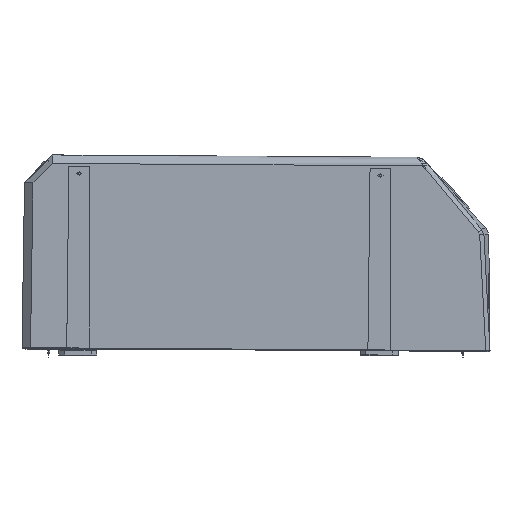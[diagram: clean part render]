
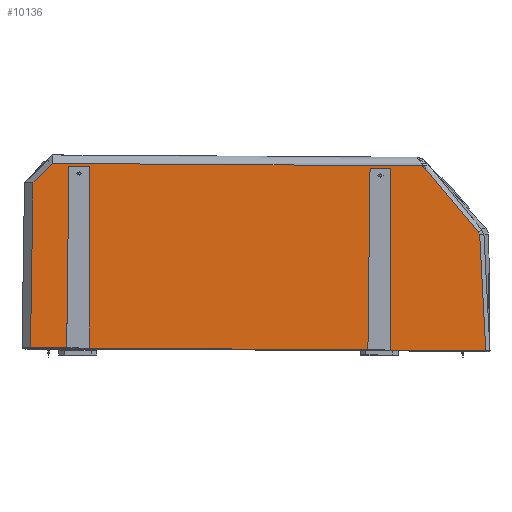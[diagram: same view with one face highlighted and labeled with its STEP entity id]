
A CAD part, left-side view. The second image highlights one B-rep face of the part: STEP entity #10136.
In plain terms, the highlighted planar face has unit normal (-1, 0, 0).
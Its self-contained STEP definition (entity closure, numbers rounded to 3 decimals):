
#4372=(
BOUNDED_CURVE()
B_SPLINE_CURVE(2,(#225765,#225766,#225767),.UNSPECIFIED.,.F.,.F.)
B_SPLINE_CURVE_WITH_KNOTS((3,3),(0.,10.934),.UNSPECIFIED.)
CURVE()
GEOMETRIC_REPRESENTATION_ITEM()
RATIONAL_B_SPLINE_CURVE((1.,0.71,1.))
REPRESENTATION_ITEM('')
);
#10136=ADVANCED_FACE('',(#16204),#99323,.T.);
#16204=FACE_OUTER_BOUND('',#22631,.T.);
#22631=EDGE_LOOP('',(#48313,#48314,#48315,#48316,#48317,#48318,#48319,#48320,
#48321,#48322,#48323,#48324,#48325,#48326,#48327,#48328,#48329,#48330));
#48313=ORIENTED_EDGE('',*,*,#68086,.F.);
#48314=ORIENTED_EDGE('',*,*,#68269,.F.);
#48315=ORIENTED_EDGE('',*,*,#68268,.F.);
#48316=ORIENTED_EDGE('',*,*,#68258,.F.);
#48317=ORIENTED_EDGE('',*,*,#68256,.F.);
#48318=ORIENTED_EDGE('',*,*,#68249,.F.);
#48319=ORIENTED_EDGE('',*,*,#68237,.F.);
#48320=ORIENTED_EDGE('',*,*,#68224,.F.);
#48321=ORIENTED_EDGE('',*,*,#68267,.F.);
#48322=ORIENTED_EDGE('',*,*,#68215,.F.);
#48323=ORIENTED_EDGE('',*,*,#68195,.F.);
#48324=ORIENTED_EDGE('',*,*,#68181,.F.);
#48325=ORIENTED_EDGE('',*,*,#68266,.T.);
#48326=ORIENTED_EDGE('',*,*,#68265,.T.);
#48327=ORIENTED_EDGE('',*,*,#68280,.T.);
#48328=ORIENTED_EDGE('',*,*,#68264,.T.);
#48329=ORIENTED_EDGE('',*,*,#68263,.T.);
#48330=ORIENTED_EDGE('',*,*,#68262,.T.);
#68086=EDGE_CURVE('',#92635,#92639,#81313,.T.);
#68181=EDGE_CURVE('',#92685,#92689,#81403,.T.);
#68195=EDGE_CURVE('',#92689,#92705,#81416,.T.);
#68215=EDGE_CURVE('',#92705,#92713,#81436,.T.);
#68224=EDGE_CURVE('',#92715,#92719,#81445,.T.);
#68237=EDGE_CURVE('',#92719,#92734,#81458,.T.);
#68249=EDGE_CURVE('',#92734,#92741,#81469,.T.);
#68256=EDGE_CURVE('',#92741,#92743,#81475,.T.);
#68258=EDGE_CURVE('',#92743,#92633,#81476,.T.);
#68262=EDGE_CURVE('',#92745,#92639,#81479,.T.);
#68263=EDGE_CURVE('',#92746,#92745,#81480,.T.);
#68264=EDGE_CURVE('',#92747,#92746,#81481,.T.);
#68265=EDGE_CURVE('',#92684,#92748,#81482,.T.);
#68266=EDGE_CURVE('',#92685,#92684,#81483,.T.);
#68267=EDGE_CURVE('',#92713,#92715,#81484,.T.);
#68268=EDGE_CURVE('',#92633,#92634,#4372,.T.);
#68269=EDGE_CURVE('',#92634,#92635,#81485,.T.);
#68280=EDGE_CURVE('',#92748,#92747,#81496,.T.);
#81313=B_SPLINE_CURVE_WITH_KNOTS('',3,(#225080,#225081,#225082,#225083),
 .UNSPECIFIED.,.F.,.F.,(4,4),(-0.383,0.),.UNSPECIFIED.);
#81403=B_SPLINE_CURVE_WITH_KNOTS('',1,(#225472,#225473),.UNSPECIFIED.,.F.,
 .F.,(2,2),(-64.201,0.),.UNSPECIFIED.);
#81416=B_SPLINE_CURVE_WITH_KNOTS('',1,(#225528,#225529),.UNSPECIFIED.,.F.,
 .F.,(2,2),(-7.325,0.),.UNSPECIFIED.);
#81436=B_SPLINE_CURVE_WITH_KNOTS('',1,(#225593,#225594),.UNSPECIFIED.,.F.,
 .F.,(2,2),(-64.201,0.),.UNSPECIFIED.);
#81445=B_SPLINE_CURVE_WITH_KNOTS('',1,(#225619,#225620),.UNSPECIFIED.,.F.,
 .F.,(2,2),(-64.201,0.),.UNSPECIFIED.);
#81458=B_SPLINE_CURVE_WITH_KNOTS('',1,(#225672,#225673),.UNSPECIFIED.,.F.,
 .F.,(2,2),(-7.325,0.),.UNSPECIFIED.);
#81469=B_SPLINE_CURVE_WITH_KNOTS('',1,(#225713,#225714),.UNSPECIFIED.,.F.,
 .F.,(2,2),(-64.201,0.),.UNSPECIFIED.);
#81475=B_SPLINE_CURVE_WITH_KNOTS('',1,(#225732,#225733),.UNSPECIFIED.,.F.,
 .F.,(2,2),(-12.812,0.),.UNSPECIFIED.);
#81476=B_SPLINE_CURVE_WITH_KNOTS('',1,(#225739,#225740),.UNSPECIFIED.,.F.,
 .F.,(2,2),(-58.263,0.),.UNSPECIFIED.);
#81479=B_SPLINE_CURVE_WITH_KNOTS('',1,(#225751,#225752),.UNSPECIFIED.,.F.,
 .F.,(2,2),(-0.939,0.),.UNSPECIFIED.);
#81480=B_SPLINE_CURVE_WITH_KNOTS('',1,(#225753,#225754),.UNSPECIFIED.,.F.,
 .F.,(2,2),(-0.289,0.),.UNSPECIFIED.);
#81481=B_SPLINE_CURVE_WITH_KNOTS('',3,(#225755,#225756,#225757,#225758),
 .UNSPECIFIED.,.F.,.F.,(4,4),(-29.733,0.),.UNSPECIFIED.);
#81482=B_SPLINE_CURVE_WITH_KNOTS('',1,(#225759,#225760),.UNSPECIFIED.,.F.,
 .F.,(2,2),(-41.117,0.),.UNSPECIFIED.);
#81483=B_SPLINE_CURVE_WITH_KNOTS('',1,(#225761,#225762),.UNSPECIFIED.,.F.,
 .F.,(2,2),(-33.672,0.),.UNSPECIFIED.);
#81484=B_SPLINE_CURVE_WITH_KNOTS('',1,(#225763,#225764),.UNSPECIFIED.,.F.,
 .F.,(2,2),(0.,98.503),.UNSPECIFIED.);
#81485=B_SPLINE_CURVE_WITH_KNOTS('',1,(#225768,#225769),.UNSPECIFIED.,.F.,
 .F.,(2,2),(0.,130.523),.UNSPECIFIED.);
#81496=B_SPLINE_CURVE_WITH_KNOTS('',3,(#225832,#225833,#225834,#225835,
#225836,#225837),.UNSPECIFIED.,.F.,.F.,(4,1,1,4),(0.,0.215,
0.43,0.646),.UNSPECIFIED.);
#92633=VERTEX_POINT('',#219795);
#92634=VERTEX_POINT('',#219796);
#92635=VERTEX_POINT('',#219797);
#92639=VERTEX_POINT('',#219801);
#92684=VERTEX_POINT('',#219846);
#92685=VERTEX_POINT('',#219847);
#92689=VERTEX_POINT('',#219851);
#92705=VERTEX_POINT('',#219867);
#92713=VERTEX_POINT('',#219875);
#92715=VERTEX_POINT('',#219877);
#92719=VERTEX_POINT('',#219881);
#92734=VERTEX_POINT('',#219896);
#92741=VERTEX_POINT('',#219903);
#92743=VERTEX_POINT('',#219905);
#92745=VERTEX_POINT('',#219907);
#92746=VERTEX_POINT('',#219908);
#92747=VERTEX_POINT('',#219909);
#92748=VERTEX_POINT('',#219910);
#99323=PLANE('',#103783);
#103783=AXIS2_PLACEMENT_3D('',#201497,#108453,$);
#108453=DIRECTION('',(-1.,0.,0.));
#201497=CARTESIAN_POINT('',(-40.539,-110.828,77.311));
#219795=CARTESIAN_POINT('',(-40.538,66.676,64.673));
#219796=CARTESIAN_POINT('',(-40.538,59.609,71.588));
#219797=CARTESIAN_POINT('',(-40.538,-71.319,70.733));
#219801=CARTESIAN_POINT('',(-40.538,-71.562,70.435));
#219846=CARTESIAN_POINT('',(-40.533,-93.913,5.18));
#219847=CARTESIAN_POINT('',(-40.533,-60.136,5.401));
#219851=CARTESIAN_POINT('',(-40.538,-60.219,69.802));
#219867=CARTESIAN_POINT('',(-40.538,-52.872,69.85));
#219875=CARTESIAN_POINT('',(-40.533,-52.115,5.453));
#219877=CARTESIAN_POINT('',(-40.533,46.694,6.098));
#219881=CARTESIAN_POINT('',(-40.538,46.611,70.5));
#219896=CARTESIAN_POINT('',(-40.538,53.958,70.548));
#219903=CARTESIAN_POINT('',(-40.533,54.716,6.151));
#219905=CARTESIAN_POINT('',(-40.533,67.567,6.234));
#219907=CARTESIAN_POINT('',(-40.538,-72.158,69.705));
#219908=CARTESIAN_POINT('',(-40.538,-72.403,69.86));
#219909=CARTESIAN_POINT('',(-40.536,-91.511,46.959));
#219910=CARTESIAN_POINT('',(-40.536,-91.743,46.369));
#225080=CARTESIAN_POINT('',(-40.538,-71.319,70.733));
#225081=CARTESIAN_POINT('',(-40.538,-71.4,70.634));
#225082=CARTESIAN_POINT('',(-40.538,-71.481,70.535));
#225083=CARTESIAN_POINT('',(-40.538,-71.562,70.435));
#225472=CARTESIAN_POINT('',(-40.533,-60.136,5.401));
#225473=CARTESIAN_POINT('',(-40.538,-60.219,69.802));
#225528=CARTESIAN_POINT('',(-40.538,-60.219,69.802));
#225529=CARTESIAN_POINT('',(-40.538,-52.872,69.85));
#225593=CARTESIAN_POINT('',(-40.538,-52.872,69.85));
#225594=CARTESIAN_POINT('',(-40.533,-52.115,5.453));
#225619=CARTESIAN_POINT('',(-40.533,46.694,6.098));
#225620=CARTESIAN_POINT('',(-40.538,46.611,70.5));
#225672=CARTESIAN_POINT('',(-40.538,46.611,70.5));
#225673=CARTESIAN_POINT('',(-40.538,53.958,70.548));
#225713=CARTESIAN_POINT('',(-40.538,53.958,70.548));
#225714=CARTESIAN_POINT('',(-40.533,54.716,6.151));
#225732=CARTESIAN_POINT('',(-40.533,54.716,6.151));
#225733=CARTESIAN_POINT('',(-40.533,67.567,6.234));
#225739=CARTESIAN_POINT('',(-40.533,67.567,6.234));
#225740=CARTESIAN_POINT('',(-40.538,66.676,64.673));
#225751=CARTESIAN_POINT('',(-40.538,-72.158,69.705));
#225752=CARTESIAN_POINT('',(-40.538,-71.562,70.435));
#225753=CARTESIAN_POINT('',(-40.538,-72.403,69.86));
#225754=CARTESIAN_POINT('',(-40.538,-72.158,69.705));
#225755=CARTESIAN_POINT('',(-40.536,-91.511,46.959));
#225756=CARTESIAN_POINT('',(-40.537,-85.142,54.593));
#225757=CARTESIAN_POINT('',(-40.537,-78.772,62.226));
#225758=CARTESIAN_POINT('',(-40.538,-72.403,69.86));
#225759=CARTESIAN_POINT('',(-40.533,-93.913,5.18));
#225760=CARTESIAN_POINT('',(-40.536,-91.743,46.369));
#225761=CARTESIAN_POINT('',(-40.533,-60.136,5.401));
#225762=CARTESIAN_POINT('',(-40.533,-93.913,5.18));
#225763=CARTESIAN_POINT('',(-40.533,-52.115,5.453));
#225764=CARTESIAN_POINT('',(-40.533,46.694,6.098));
#225765=CARTESIAN_POINT('',(-40.538,66.676,64.673));
#225766=CARTESIAN_POINT('',(-40.538,66.569,71.633));
#225767=CARTESIAN_POINT('',(-40.538,59.609,71.588));
#225768=CARTESIAN_POINT('',(-40.538,59.609,71.588));
#225769=CARTESIAN_POINT('',(-40.538,-71.319,70.733));
#225832=CARTESIAN_POINT('',(-40.536,-91.743,46.369));
#225833=CARTESIAN_POINT('',(-40.536,-91.739,46.44));
#225834=CARTESIAN_POINT('',(-40.536,-91.716,46.583));
#225835=CARTESIAN_POINT('',(-40.536,-91.637,46.784));
#225836=CARTESIAN_POINT('',(-40.536,-91.557,46.904));
#225837=CARTESIAN_POINT('',(-40.536,-91.511,46.959));
